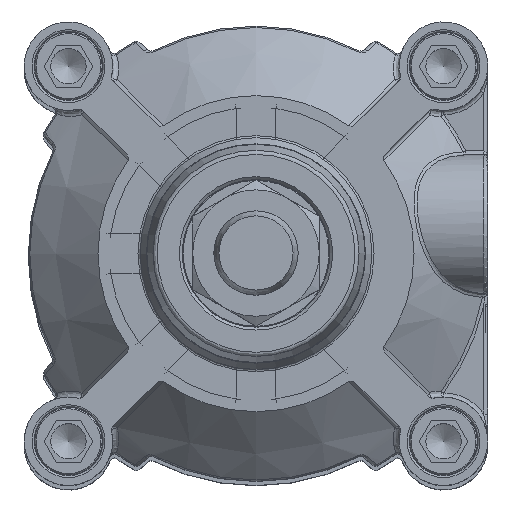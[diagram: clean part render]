
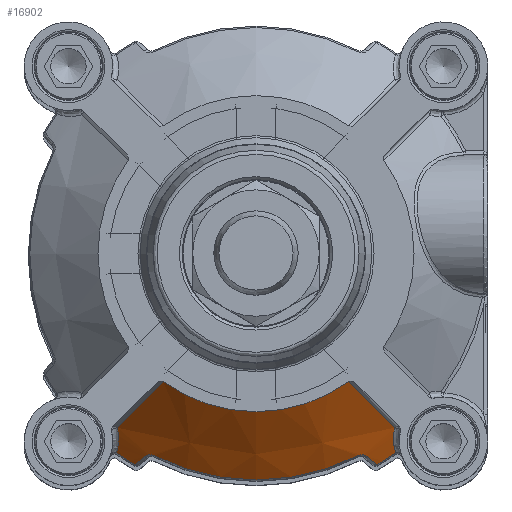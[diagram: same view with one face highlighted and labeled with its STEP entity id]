
A CAD part, top view. The second image highlights one B-rep face of the part: STEP entity #16902.
In plain terms, the highlighted conical face has half-angle 47.936 degrees and reference radius 47.75 mm.
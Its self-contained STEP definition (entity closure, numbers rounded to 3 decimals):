
#336=B_SPLINE_CURVE_WITH_KNOTS('',3,(#25208,#25209,#25210,#25211),
 .UNSPECIFIED.,.F.,.F.,(4,4),(0.,1.),.UNSPECIFIED.);
#342=B_SPLINE_CURVE_WITH_KNOTS('',3,(#25295,#25296,#25297,#25298,#25299,
#25300,#25301,#25302,#25303,#25304),.UNSPECIFIED.,.F.,.F.,(4,1,1,1,1,1,
1,4),(0.,0.25,0.375,0.5,0.625,0.75,0.875,1.),.UNSPECIFIED.);
#345=B_SPLINE_CURVE_WITH_KNOTS('',3,(#25365,#25366,#25367,#25368,#25369),
 .UNSPECIFIED.,.F.,.F.,(4,1,4),(0.,0.5,1.),.UNSPECIFIED.);
#351=B_SPLINE_CURVE_WITH_KNOTS('',3,(#25435,#25436,#25437,#25438,#25439),
 .UNSPECIFIED.,.F.,.F.,(4,1,4),(0.,0.5,1.),.UNSPECIFIED.);
#354=B_SPLINE_CURVE_WITH_KNOTS('',3,(#25465,#25466,#25467,#25468),
 .UNSPECIFIED.,.F.,.F.,(4,4),(0.,1.),.UNSPECIFIED.);
#362=B_SPLINE_CURVE_WITH_KNOTS('',3,(#25568,#25569,#25570,#25571,#25572,
#25573,#25574,#25575,#25576),.UNSPECIFIED.,.F.,.F.,(4,1,1,1,1,1,4),(0.,
0.25,0.375,0.5,0.625,0.75,1.),.UNSPECIFIED.);
#365=B_SPLINE_CURVE_WITH_KNOTS('',3,(#25593,#25594,#25595,#25596),
 .UNSPECIFIED.,.F.,.F.,(4,4),(0.,1.),.UNSPECIFIED.);
#366=B_SPLINE_CURVE_WITH_KNOTS('',3,(#25613,#25614,#25615,#25616),
 .UNSPECIFIED.,.F.,.F.,(4,4),(0.,1.),.UNSPECIFIED.);
#2429=CONICAL_SURFACE('',#17961,47.75,0.837);
#3868=ORIENTED_EDGE('',*,*,#7061,.F.);
#3869=ORIENTED_EDGE('',*,*,#7058,.F.);
#3870=ORIENTED_EDGE('',*,*,#7053,.F.);
#3871=ORIENTED_EDGE('',*,*,#7047,.F.);
#3872=ORIENTED_EDGE('',*,*,#7040,.F.);
#3873=ORIENTED_EDGE('',*,*,#7042,.F.);
#3874=ORIENTED_EDGE('',*,*,#7034,.F.);
#3875=ORIENTED_EDGE('',*,*,#7072,.F.);
#3876=ORIENTED_EDGE('',*,*,#7032,.F.);
#3877=ORIENTED_EDGE('',*,*,#7027,.F.);
#3878=ORIENTED_EDGE('',*,*,#7019,.F.);
#3879=ORIENTED_EDGE('',*,*,#6991,.F.);
#6991=EDGE_CURVE('',#8712,#8713,#9696,.T.);
#7019=EDGE_CURVE('',#8713,#8730,#336,.T.);
#7027=EDGE_CURVE('',#8730,#8733,#342,.F.);
#7032=EDGE_CURVE('',#8733,#8739,#9713,.T.);
#7034=EDGE_CURVE('',#8740,#8741,#345,.F.);
#7040=EDGE_CURVE('',#8746,#8747,#351,.F.);
#7042=EDGE_CURVE('',#8741,#8746,#9715,.T.);
#7047=EDGE_CURVE('',#8747,#8750,#354,.T.);
#7053=EDGE_CURVE('',#8750,#8753,#9719,.T.);
#7058=EDGE_CURVE('',#8753,#8757,#362,.F.);
#7061=EDGE_CURVE('',#8757,#8712,#365,.T.);
#7072=EDGE_CURVE('',#8739,#8740,#366,.T.);
#8712=VERTEX_POINT('',#25110);
#8713=VERTEX_POINT('',#25112);
#8730=VERTEX_POINT('',#25195);
#8733=VERTEX_POINT('',#25244);
#8739=VERTEX_POINT('',#25321);
#8740=VERTEX_POINT('',#25370);
#8741=VERTEX_POINT('',#25371);
#8746=VERTEX_POINT('',#25434);
#8747=VERTEX_POINT('',#25440);
#8750=VERTEX_POINT('',#25462);
#8753=VERTEX_POINT('',#25508);
#8757=VERTEX_POINT('',#25538);
#9696=CIRCLE('',#17911,37.5);
#9713=CIRCLE('',#17939,57.67);
#9715=CIRCLE('',#17942,53.67);
#9719=CIRCLE('',#17949,57.67);
#10500=EDGE_LOOP('',(#3868,#3869,#3870,#3871,#3872,#3873,#3874,#3875,#3876,
#3877,#3878,#3879));
#11404=FACE_BOUND('',#10500,.T.);
#16902=ADVANCED_FACE('',(#11404),#2429,.T.);
#17911=AXIS2_PLACEMENT_3D('',#25111,#20105,#20106);
#17939=AXIS2_PLACEMENT_3D('',#25333,#20170,#20171);
#17942=AXIS2_PLACEMENT_3D('',#25446,#20176,#20177);
#17949=AXIS2_PLACEMENT_3D('',#25520,#20190,#20191);
#17961=AXIS2_PLACEMENT_3D('',#25624,#20226,#20227);
#20105=DIRECTION('',(0.,0.,1.));
#20106=DIRECTION('',(1.,0.,0.));
#20170=DIRECTION('',(0.,0.,-1.));
#20171=DIRECTION('',(0.54,-0.842,0.));
#20176=DIRECTION('',(0.,0.,-1.));
#20177=DIRECTION('',(0.,-1.,0.));
#20190=DIRECTION('',(0.,0.,-1.));
#20191=DIRECTION('',(-0.54,-0.842,0.));
#20226=DIRECTION('',(0.,0.,-1.));
#20227=DIRECTION('',(0.707,-0.707,0.));
#25110=CARTESIAN_POINT('',(-22.019,-30.355,48.5));
#25111=CARTESIAN_POINT('',(0.,0.,48.5));
#25112=CARTESIAN_POINT('',(22.019,-30.355,48.5));
#25195=CARTESIAN_POINT('',(32.903,-41.282,34.702));
#25208=CARTESIAN_POINT('',(22.021,-30.358,48.504));
#25209=CARTESIAN_POINT('',(25.649,-34.,43.905));
#25210=CARTESIAN_POINT('',(29.277,-37.642,39.305));
#25211=CARTESIAN_POINT('',(32.905,-41.284,34.706));
#25244=CARTESIAN_POINT('',(33.093,-47.23,30.298));
#25295=CARTESIAN_POINT('',(33.093,-47.23,30.298));
#25296=CARTESIAN_POINT('',(32.949,-46.753,30.725));
#25297=CARTESIAN_POINT('',(32.783,-46.041,31.337));
#25298=CARTESIAN_POINT('',(32.654,-45.082,32.107));
#25299=CARTESIAN_POINT('',(32.603,-44.391,32.638));
#25300=CARTESIAN_POINT('',(32.596,-43.599,33.216));
#25301=CARTESIAN_POINT('',(32.639,-42.86,33.725));
#25302=CARTESIAN_POINT('',(32.74,-42.051,34.248));
#25303=CARTESIAN_POINT('',(32.842,-41.538,34.555));
#25304=CARTESIAN_POINT('',(32.903,-41.282,34.702));
#25321=CARTESIAN_POINT('',(28.682,-50.032,30.298));
#25333=CARTESIAN_POINT('',(0.,0.,30.298));
#25365=CARTESIAN_POINT('',(24.254,-47.877,33.908));
#25366=CARTESIAN_POINT('',(24.652,-47.676,33.908));
#25367=CARTESIAN_POINT('',(25.587,-47.576,33.595));
#25368=CARTESIAN_POINT('',(26.221,-47.909,33.054));
#25369=CARTESIAN_POINT('',(26.49,-48.141,32.754));
#25370=CARTESIAN_POINT('',(26.49,-48.141,32.754));
#25371=CARTESIAN_POINT('',(24.254,-47.877,33.908));
#25434=CARTESIAN_POINT('',(-24.254,-47.877,33.908));
#25435=CARTESIAN_POINT('',(-26.49,-48.141,32.754));
#25436=CARTESIAN_POINT('',(-26.221,-47.909,33.055));
#25437=CARTESIAN_POINT('',(-25.584,-47.575,33.596));
#25438=CARTESIAN_POINT('',(-24.652,-47.675,33.908));
#25439=CARTESIAN_POINT('',(-24.254,-47.877,33.908));
#25440=CARTESIAN_POINT('',(-26.49,-48.141,32.754));
#25446=CARTESIAN_POINT('',(0.,0.,33.908));
#25462=CARTESIAN_POINT('',(-28.682,-50.032,30.298));
#25465=CARTESIAN_POINT('',(-26.49,-48.141,32.755));
#25466=CARTESIAN_POINT('',(-27.221,-48.772,31.936));
#25467=CARTESIAN_POINT('',(-27.952,-49.402,31.117));
#25468=CARTESIAN_POINT('',(-28.682,-50.032,30.298));
#25508=CARTESIAN_POINT('',(-33.093,-47.23,30.298));
#25520=CARTESIAN_POINT('',(0.,0.,30.298));
#25538=CARTESIAN_POINT('',(-32.903,-41.282,34.702));
#25568=CARTESIAN_POINT('',(-32.903,-41.282,34.702));
#25569=CARTESIAN_POINT('',(-32.785,-41.783,34.414));
#25570=CARTESIAN_POINT('',(-32.659,-42.548,33.939));
#25571=CARTESIAN_POINT('',(-32.595,-43.573,33.235));
#25572=CARTESIAN_POINT('',(-32.603,-44.39,32.639));
#25573=CARTESIAN_POINT('',(-32.655,-45.079,32.109));
#25574=CARTESIAN_POINT('',(-32.783,-46.042,31.335));
#25575=CARTESIAN_POINT('',(-32.949,-46.754,30.724));
#25576=CARTESIAN_POINT('',(-33.093,-47.23,30.298));
#25593=CARTESIAN_POINT('',(-32.905,-41.284,34.706));
#25594=CARTESIAN_POINT('',(-29.277,-37.642,39.305));
#25595=CARTESIAN_POINT('',(-25.649,-34.,43.905));
#25596=CARTESIAN_POINT('',(-22.021,-30.358,48.504));
#25613=CARTESIAN_POINT('',(28.682,-50.032,30.298));
#25614=CARTESIAN_POINT('',(27.952,-49.402,31.117));
#25615=CARTESIAN_POINT('',(27.221,-48.772,31.936));
#25616=CARTESIAN_POINT('',(26.49,-48.141,32.755));
#25624=CARTESIAN_POINT('',(0.,0.,39.25));
